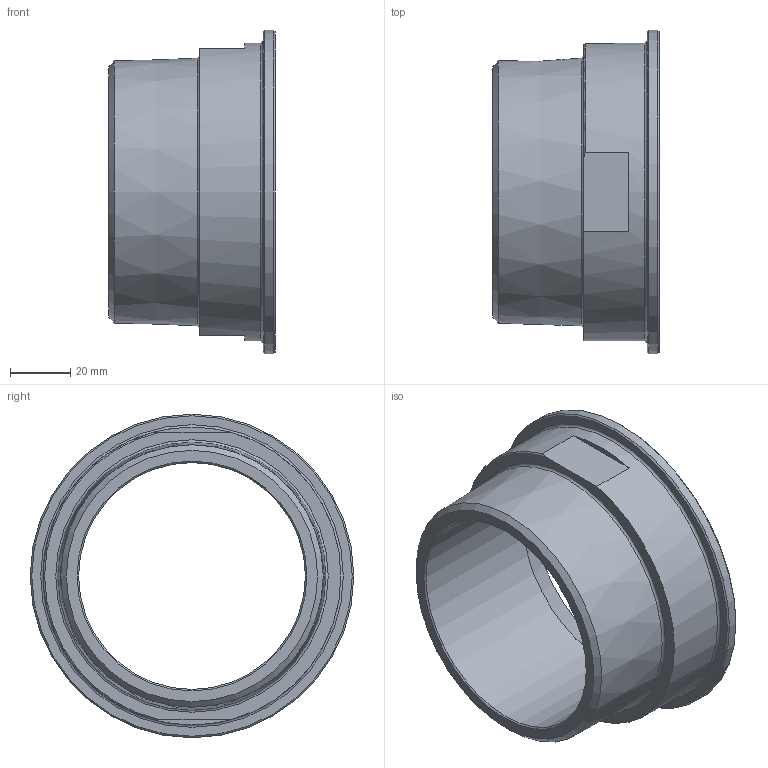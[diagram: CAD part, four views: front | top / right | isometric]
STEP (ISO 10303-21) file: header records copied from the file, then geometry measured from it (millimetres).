
FILE_DESCRIPTION(/* description */ (''),/* implementation_level */ '2;1');
FILE_NAME(/* name */ 'C:\Users\cad\Desktop\Zeichnungen neu von Ralph\3D_Kupplung_R666-UE\3D_R666-UE-DN80-DN100_17113275.stp',/* time_stamp */ '2021-06-17T14:38:54+02:00',/* author */ ('cad'),/* organization */ (''),/* preprocessor_version */ 'ST-DEVELOPER v18.1',/* originating_system */ 'Autodesk Inventor 2022',/* authorisation */ '');
FILE_SCHEMA (('AUTOMOTIVE_DESIGN { 1 0 10303 214 3 1 1 }'));
Length unit declared in the file: millimetre
Products named in the file (1): 3D_R666-UE-DN80-DN100_17113275
Bounding box: 55 x 107 x 107 mm (x, y, z)
Volume: 126827.5 mm3; surface area: 36353.9 mm2
Topology: 1 solids, 1 shells, 20 faces, 47 edges, 31 vertices
Faces by surface type: plane 8, cone 7, cylinder 3, torus 2
Full cylindrical faces by diameter (mm): 75 x1, 98.5 x1, 107 x1
Entity records: 634 total; most frequent: DIRECTION 115, CARTESIAN_POINT 103, ORIENTED_EDGE 94, AXIS2_PLACEMENT_3D 49, EDGE_CURVE 47, VERTEX_POINT 31, CIRCLE 28, EDGE_LOOP 24
